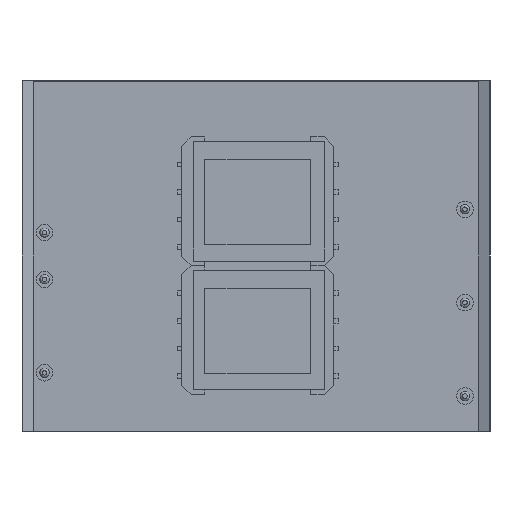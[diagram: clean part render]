
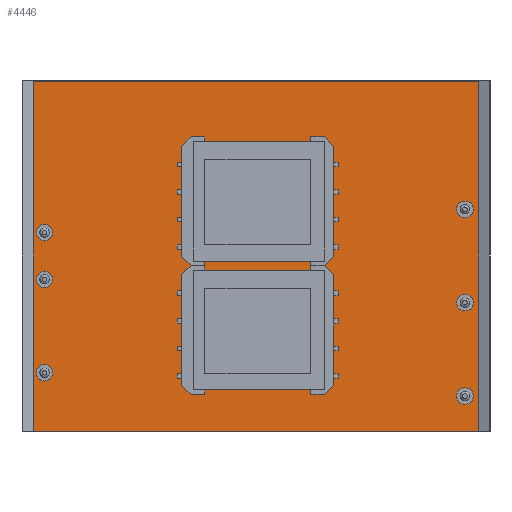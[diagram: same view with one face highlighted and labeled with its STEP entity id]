
A CAD part, front view. The second image highlights one B-rep face of the part: STEP entity #4446.
In plain terms, the highlighted planar face has unit normal (0, -1, 0) as drawn and (0, 0, 1) by its records, which use the part's own axes.
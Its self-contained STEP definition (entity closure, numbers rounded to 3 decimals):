
#4100=CARTESIAN_POINT('',(-107.736,-123.395,0.8));
#4101=VERTEX_POINT('',#4100);
#4102=CARTESIAN_POINT('',(-108.311,-123.395,0.8));
#4103=DIRECTION('',(0.0,0.0,-1.0));
#4104=DIRECTION('',(-1.0,0.0,0.0));
#4105=AXIS2_PLACEMENT_3D('',#4102,#4103,#4104);
#4106=CIRCLE('',#4105,0.575);
#4107=EDGE_CURVE('',#4101,#4101,#4106,.T.);
#4128=CARTESIAN_POINT('',(-107.736,-113.235,0.8));
#4129=VERTEX_POINT('',#4128);
#4130=CARTESIAN_POINT('',(-108.311,-113.235,0.8));
#4131=DIRECTION('',(0.0,0.0,-1.0));
#4132=DIRECTION('',(-1.0,0.0,0.0));
#4133=AXIS2_PLACEMENT_3D('',#4130,#4131,#4132);
#4134=CIRCLE('',#4133,0.575);
#4135=EDGE_CURVE('',#4129,#4129,#4134,.T.);
#4156=CARTESIAN_POINT('',(-107.736,-103.075,0.8));
#4157=VERTEX_POINT('',#4156);
#4158=CARTESIAN_POINT('',(-108.311,-103.075,0.8));
#4159=DIRECTION('',(0.0,0.0,-1.0));
#4160=DIRECTION('',(-1.0,0.0,0.0));
#4161=AXIS2_PLACEMENT_3D('',#4158,#4159,#4160);
#4162=CIRCLE('',#4161,0.575);
#4163=EDGE_CURVE('',#4157,#4157,#4162,.T.);
#4184=CARTESIAN_POINT('',(-153.456,-105.615,0.8));
#4185=VERTEX_POINT('',#4184);
#4186=CARTESIAN_POINT('',(-154.031,-105.615,0.8));
#4187=DIRECTION('',(0.0,0.0,-1.0));
#4188=DIRECTION('',(-1.0,0.0,0.0));
#4189=AXIS2_PLACEMENT_3D('',#4186,#4187,#4188);
#4190=CIRCLE('',#4189,0.575);
#4191=EDGE_CURVE('',#4185,#4185,#4190,.T.);
#4212=CARTESIAN_POINT('',(-153.456,-110.695,0.8));
#4213=VERTEX_POINT('',#4212);
#4214=CARTESIAN_POINT('',(-154.031,-110.695,0.8));
#4215=DIRECTION('',(0.0,0.0,-1.0));
#4216=DIRECTION('',(-1.0,0.0,0.0));
#4217=AXIS2_PLACEMENT_3D('',#4214,#4215,#4216);
#4218=CIRCLE('',#4217,0.575);
#4219=EDGE_CURVE('',#4213,#4213,#4218,.T.);
#4240=CARTESIAN_POINT('',(-153.456,-120.855,0.8));
#4241=VERTEX_POINT('',#4240);
#4242=CARTESIAN_POINT('',(-154.031,-120.855,0.8));
#4243=DIRECTION('',(0.0,0.0,-1.0));
#4244=DIRECTION('',(-1.0,0.0,0.0));
#4245=AXIS2_PLACEMENT_3D('',#4242,#4243,#4244);
#4246=CIRCLE('',#4245,0.575);
#4247=EDGE_CURVE('',#4241,#4241,#4246,.T.);
#4268=CARTESIAN_POINT('',(-155.591,-89.155,0.8));
#4269=VERTEX_POINT('',#4268);
#4270=CARTESIAN_POINT('',(-106.741,-89.155,0.8));
#4271=VERTEX_POINT('',#4270);
#4272=CARTESIAN_POINT('',(-155.591,-89.155,0.8));
#4273=DIRECTION('',(1.0,0.0,0.0));
#4274=VECTOR('',#4273,48.85);
#4275=LINE('',#4272,#4274);
#4276=EDGE_CURVE('',#4269,#4271,#4275,.T.);
#4308=CARTESIAN_POINT('',(-106.741,-127.205,0.8));
#4309=VERTEX_POINT('',#4308);
#4310=CARTESIAN_POINT('',(-106.741,-89.155,0.8));
#4311=DIRECTION('',(0.0,-1.0,0.0));
#4312=VECTOR('',#4311,38.05);
#4313=LINE('',#4310,#4312);
#4314=EDGE_CURVE('',#4271,#4309,#4313,.T.);
#4339=CARTESIAN_POINT('',(-155.591,-127.205,0.8));
#4340=VERTEX_POINT('',#4339);
#4341=CARTESIAN_POINT('',(-106.741,-127.205,0.8));
#4342=DIRECTION('',(-1.0,0.0,0.0));
#4343=VECTOR('',#4342,48.85);
#4344=LINE('',#4341,#4343);
#4345=EDGE_CURVE('',#4309,#4340,#4344,.T.);
#4370=CARTESIAN_POINT('',(-155.591,-127.205,0.8));
#4371=DIRECTION('',(0.0,1.0,0.0));
#4372=VECTOR('',#4371,38.05);
#4373=LINE('',#4370,#4372);
#4374=EDGE_CURVE('',#4340,#4269,#4373,.T.);
#4417=CARTESIAN_POINT('',(-131.166,-108.18,0.8));
#4418=DIRECTION('',(0.0,0.0,1.0));
#4419=DIRECTION('',(1.0,0.0,0.0));
#4420=AXIS2_PLACEMENT_3D('',#4417,#4418,#4419);
#4421=PLANE('',#4420);
#4422=ORIENTED_EDGE('',*,*,#4276,.F.);
#4423=ORIENTED_EDGE('',*,*,#4374,.F.);
#4424=ORIENTED_EDGE('',*,*,#4345,.F.);
#4425=ORIENTED_EDGE('',*,*,#4314,.F.);
#4426=EDGE_LOOP('',(#4422,#4423,#4424,#4425));
#4427=FACE_OUTER_BOUND('',#4426,.T.);
#4428=ORIENTED_EDGE('',*,*,#4107,.T.);
#4429=EDGE_LOOP('',(#4428));
#4430=FACE_BOUND('',#4429,.T.);
#4431=ORIENTED_EDGE('',*,*,#4135,.T.);
#4432=EDGE_LOOP('',(#4431));
#4433=FACE_BOUND('',#4432,.T.);
#4434=ORIENTED_EDGE('',*,*,#4163,.T.);
#4435=EDGE_LOOP('',(#4434));
#4436=FACE_BOUND('',#4435,.T.);
#4437=ORIENTED_EDGE('',*,*,#4191,.T.);
#4438=EDGE_LOOP('',(#4437));
#4439=FACE_BOUND('',#4438,.T.);
#4440=ORIENTED_EDGE('',*,*,#4219,.T.);
#4441=EDGE_LOOP('',(#4440));
#4442=FACE_BOUND('',#4441,.T.);
#4443=ORIENTED_EDGE('',*,*,#4247,.T.);
#4444=EDGE_LOOP('',(#4443));
#4445=FACE_BOUND('',#4444,.T.);
#4446=ADVANCED_FACE('',(#4427,#4430,#4433,#4436,#4439,#4442,#4445),#4421,.T.);
